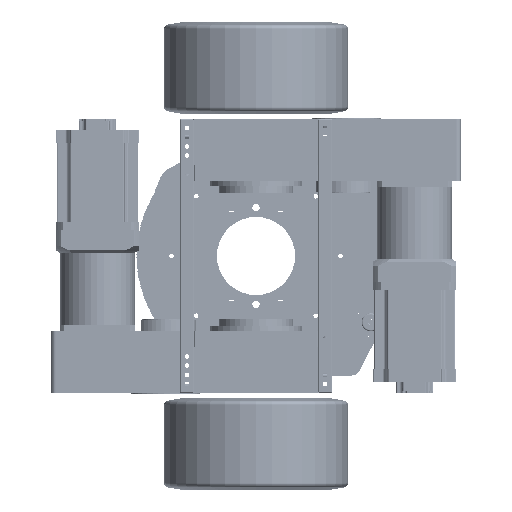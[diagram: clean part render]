
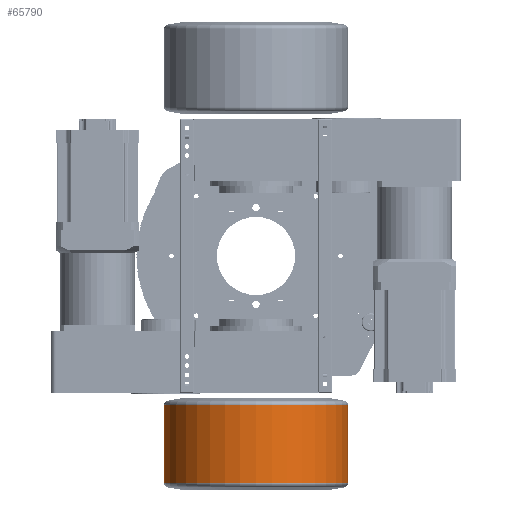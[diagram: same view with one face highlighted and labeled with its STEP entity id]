
A CAD part, front view. The second image highlights one B-rep face of the part: STEP entity #65790.
In plain terms, the highlighted cylindrical face has radius 200 mm (diameter 400 mm), a partial arc.
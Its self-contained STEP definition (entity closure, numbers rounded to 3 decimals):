
#373 = DIRECTION ( 'NONE',  ( 0., 0., 1. ) ) ;
#3825 = ORIENTED_EDGE ( 'NONE', *, *, #111608, .F. ) ;
#4196 = VECTOR ( 'NONE', #32917, 1000. ) ;
#10413 = VERTEX_POINT ( 'NONE', #19469 ) ;
#15213 = VERTEX_POINT ( 'NONE', #128559 ) ;
#19469 = CARTESIAN_POINT ( 'NONE',  ( 313.52, 7.893, 572.142 ) ) ;
#21986 = DIRECTION ( 'NONE',  ( 1., 0., 0. ) ) ;
#30866 = EDGE_CURVE ( 'NONE', #15213, #64259, #36191, .T. ) ;
#32917 = DIRECTION ( 'NONE',  ( 0., 0., 1. ) ) ;
#36191 = CIRCLE ( 'NONE', #43323, 200. ) ;
#43323 = AXIS2_PLACEMENT_3D ( 'NONE', #137072, #373, #21986 ) ;
#50222 = VECTOR ( 'NONE', #110302, 1000. ) ;
#64259 = VERTEX_POINT ( 'NONE', #132025 ) ;
#65790 = ADVANCED_FACE ( 'NONE', ( #94420 ), #98678, .T. ) ;
#66027 = LINE ( 'NONE', #134886, #50222 ) ;
#66887 = DIRECTION ( 'NONE',  ( 0., 0., 1. ) ) ;
#66957 = ORIENTED_EDGE ( 'NONE', *, *, #130660, .F. ) ;
#73031 = AXIS2_PLACEMENT_3D ( 'NONE', #146918, #66887, #112651 ) ;
#76900 = DIRECTION ( 'NONE',  ( 1., 0., 0. ) ) ;
#77008 = CARTESIAN_POINT ( 'NONE',  ( 313.52, 7.893, 487.586 ) ) ;
#78375 = CARTESIAN_POINT ( 'NONE',  ( 113.52, 7.893, 487.586 ) ) ;
#79535 = ORIENTED_EDGE ( 'NONE', *, *, #125715, .T. ) ;
#89033 = LINE ( 'NONE', #77008, #4196 ) ;
#94420 = FACE_OUTER_BOUND ( 'NONE', #146472, .T. ) ;
#98678 = CYLINDRICAL_SURFACE ( 'NONE', #135767, 200. ) ;
#110302 = DIRECTION ( 'NONE',  ( 0., 0., 1. ) ) ;
#111020 = VERTEX_POINT ( 'NONE', #125125 ) ;
#111608 = EDGE_CURVE ( 'NONE', #15213, #111020, #66027, .T. ) ;
#112651 = DIRECTION ( 'NONE',  ( 1., 0., 0. ) ) ;
#113700 = CIRCLE ( 'NONE', #73031, 200. ) ;
#114226 = ORIENTED_EDGE ( 'NONE', *, *, #30866, .T. ) ;
#125125 = CARTESIAN_POINT ( 'NONE',  ( -86.48, 7.893, 572.142 ) ) ;
#125715 = EDGE_CURVE ( 'NONE', #64259, #10413, #89033, .T. ) ;
#128559 = CARTESIAN_POINT ( 'NONE',  ( -86.48, 7.893, 403.031 ) ) ;
#130660 = EDGE_CURVE ( 'NONE', #111020, #10413, #113700, .T. ) ;
#132025 = CARTESIAN_POINT ( 'NONE',  ( 313.52, 7.893, 403.031 ) ) ;
#134480 = DIRECTION ( 'NONE',  ( 0., 0., 1. ) ) ;
#134886 = CARTESIAN_POINT ( 'NONE',  ( -86.48, 7.893, 487.586 ) ) ;
#135767 = AXIS2_PLACEMENT_3D ( 'NONE', #78375, #134480, #76900 ) ;
#137072 = CARTESIAN_POINT ( 'NONE',  ( 113.52, 7.893, 403.031 ) ) ;
#146472 = EDGE_LOOP ( 'NONE', ( #3825, #114226, #79535, #66957 ) ) ;
#146918 = CARTESIAN_POINT ( 'NONE',  ( 113.52, 7.893, 572.142 ) ) ;
